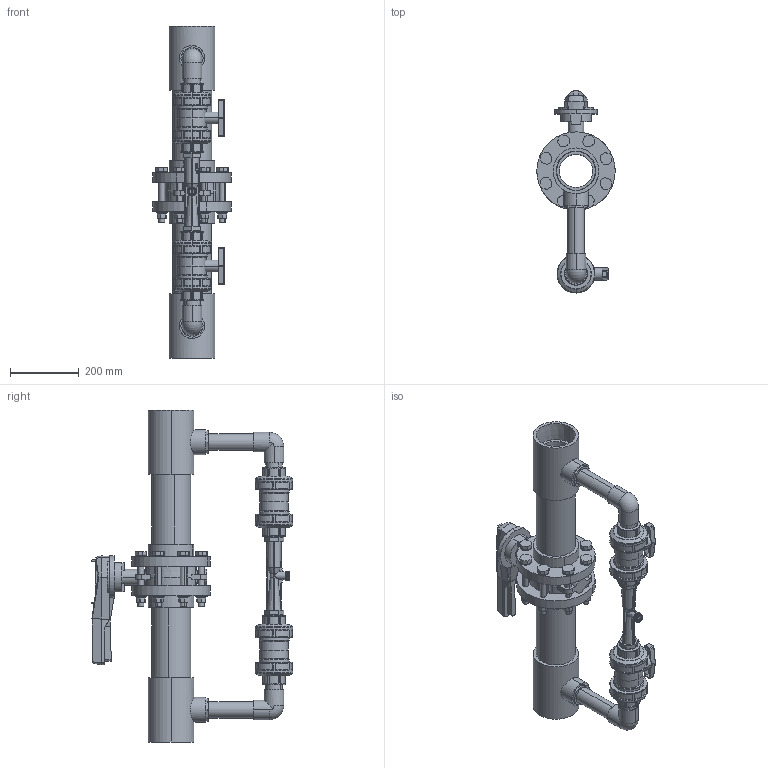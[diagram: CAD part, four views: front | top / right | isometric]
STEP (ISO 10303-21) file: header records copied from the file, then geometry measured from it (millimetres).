
FILE_DESCRIPTION (( 'STEP AP203' ), '1' );
FILE_NAME ('9-1045-01 4INCHINJECTOR_ASSY_WITH _1584.STEP', '2018-08-08T15:57:46', ( '' ), ( '' ), 'SwSTEP 2.0', 'SolidWorks 2017', '' );
FILE_SCHEMA (( 'CONFIG_CONTROL_DESIGN' ));
Length unit declared in the file: inch
Products named in the file (1): 9-1045-01 4INCHINJECTOR_ASSY_WITH _1584
Bounding box: 228.44 x 589.05 x 968.45 mm (x, y, z)
Surface area: 1447424.6 mm2 (no closed solid volume)
Topology: 0 solids, 79 shells, 1275 faces, 3821 edges, 2572 vertices
Faces by surface type: plane 496, cylinder 461, torus 230, cone 86, bspline 2
Entity records: 47267 total; most frequent: CARTESIAN_POINT 13619, DIRECTION 7081, ORIENTED_EDGE 6566, EDGE_CURVE 3821, AXIS2_PLACEMENT_3D 2719, VERTEX_POINT 2572, VECTOR 1643, LINE 1643
